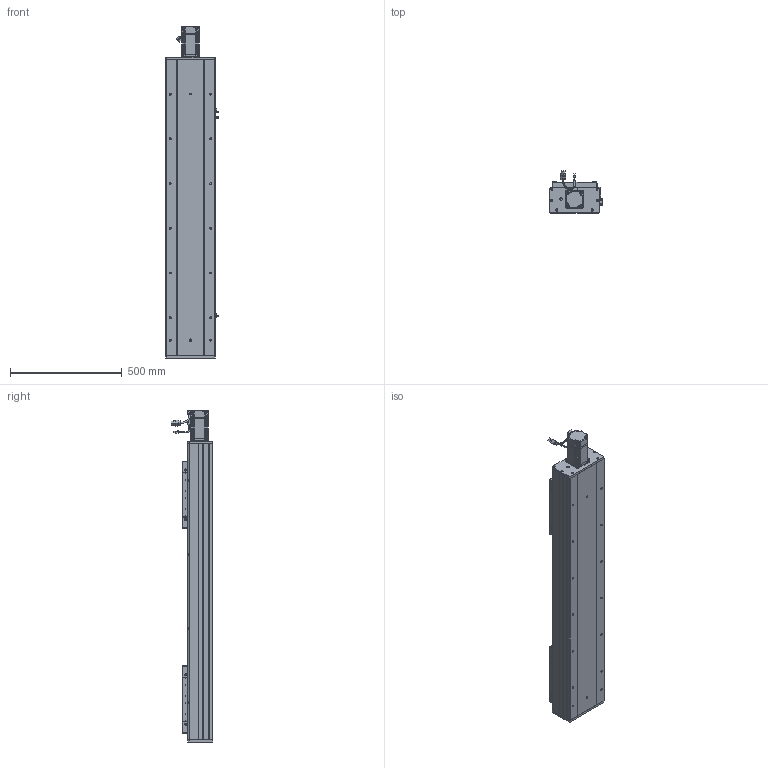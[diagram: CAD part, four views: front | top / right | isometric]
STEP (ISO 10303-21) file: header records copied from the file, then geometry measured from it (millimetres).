
FILE_DESCRIPTION (( 'STEP AP203' ), '1' );
FILE_NAME ('RY220F-L2525-300-MK.SLDASM_900.step', '2022-07-04T01:03:41', ( '' ), ( '' ), 'SwSTEP 2.0', 'SolidWorks 2016', '' );
FILE_SCHEMA (( 'CONFIG_CONTROL_DESIGN' ));
Length unit declared in the file: millimetre
Products named in the file (15): RY220F臏賑釱25-32佪裝; RY220电机支撑座FK20（PCD90M6）; RY220F-奻裔啣-300_900; 覜茼ん672; 怢湛750W_ECMA-CX0807ES; RY220F-L2525-300-MK.SLDASM_900; RY220F-672覜茼んえ; 滅袉蝶18-20; RY220F綴裔啣; RY220F菁釱MK-300_900; RY220Fヶ裔啣; RY220F-滅鳥奻裔; RY220F-祥凄詩湍-MK-300_900; 滅袉蝶18-24; RY220F-詩湍揤踡輸
Assembly tree (23 placements, depth 2):
  RY220F-L2525-300-MK.SLDASM_900
    RY220F菁釱MK-300_900
    RY220电机支撑座FK20（PCD90M6）
    RY220F-奻裔啣-300_900  x2
    怢湛750W_ECMA-CX0807ES
    RY220F臏賑釱25-32佪裝  x2
    RY220F-滅鳥奻裔  x2
    滅袉蝶18-20
    滅袉蝶18-24  x3
    RY220Fヶ裔啣
    RY220F綴裔啣
    RY220F-祥凄詩湍-MK-300_900
    RY220F-詩湍揤踡輸  x2
    覜茼ん672  x3
    RY220F-672覜茼んえ  x2
Bounding box: 233.7 x 187.27 x 1484.3 mm (x, y, z)
Volume: 14184917 mm3; surface area: 3499499.2 mm2
Topology: 24 solids, 24 shells, 2742 faces, 7514 edges, 4656 vertices
Faces by surface type: cylinder 1238, plane 1030, cone 411, bspline 37, sphere 16, torus 10
Entity records: 68414 total; most frequent: CARTESIAN_POINT 18396, ORIENTED_EDGE 10138, DIRECTION 9850, EDGE_CURVE 5069, AXIS2_PLACEMENT_3D 3503, VERTEX_POINT 3296, VECTOR 2844, LINE 2844
